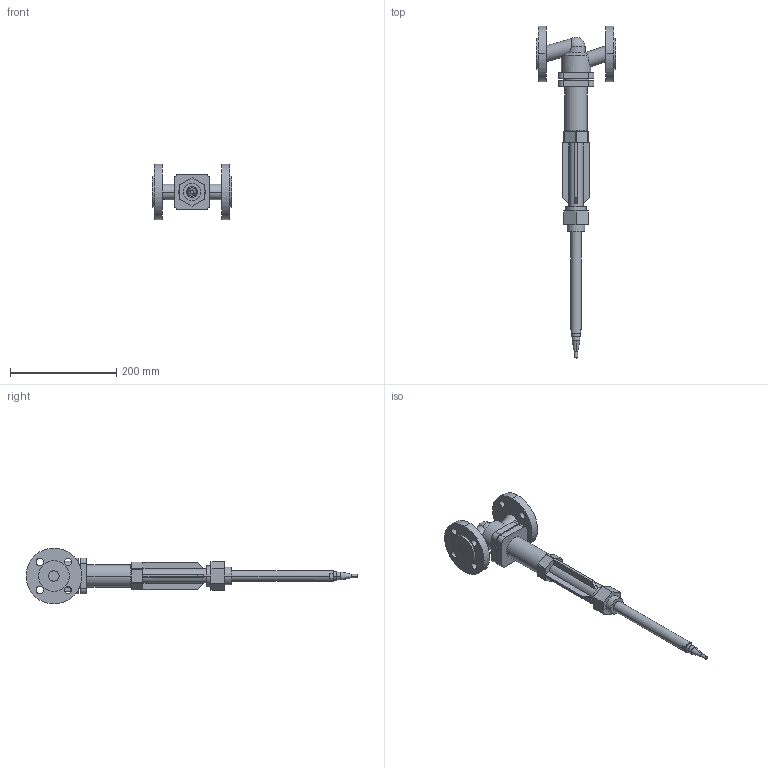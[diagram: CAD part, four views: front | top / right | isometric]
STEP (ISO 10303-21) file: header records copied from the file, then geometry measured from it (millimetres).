
FILE_DESCRIPTION(('CoCreate Modeling STEP Export'),'2;1');
FILE_NAME('c000001243.stp','2011-09-22T10:48:29',(''),(''),'CoCreate Modeling STEP processor for AP214 (Solid Model)','CoCreate Modeling 17.0 01-Apr-2010 (C) Parametric Technology GmbH','');
FILE_SCHEMA(('AUTOMOTIVE_DESIGN { 1 0 10303 214 1 1 1 1 }'));
Length unit declared in the file: millimetre
Products named in the file (1): 1
Bounding box: 150 x 624.94 x 105 mm (x, y, z)
Volume: 912971.7 mm3; surface area: 140898.2 mm2
Topology: 1 solids, 1 shells, 168 faces, 418 edges, 271 vertices
Faces by surface type: plane 80, cylinder 76, cone 10, sphere 2
Entity records: 7162 total; most frequent: CARTESIAN_POINT 2009, ORIENTED_EDGE 832, DIRECTION 719, EDGE_CURVE 416, VERTEX_POINT 271, AXIS2_PLACEMENT_3D 249, VECTOR 221, LINE 221
